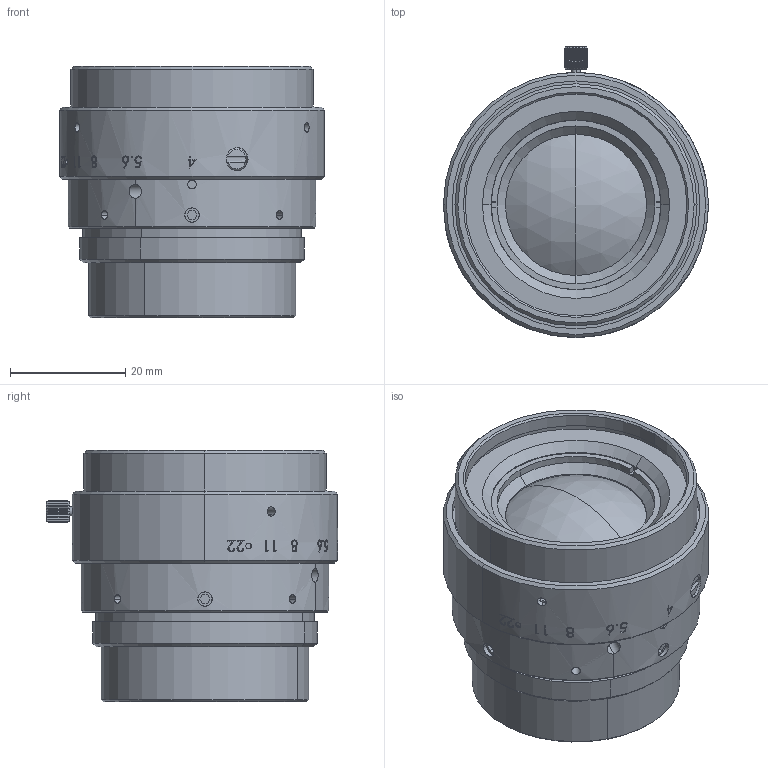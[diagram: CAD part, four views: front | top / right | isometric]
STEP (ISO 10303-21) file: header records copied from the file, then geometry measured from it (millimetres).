
FILE_DESCRIPTION (( 'STEP AP203' ), '1' );
FILE_NAME ('3d_C-ML-6540-62M39_a001.STEP', '2023-10-13T04:21:40', ( '' ), ( '' ), 'SwSTEP 2.0', 'SolidWorks 2020', '' );
FILE_SCHEMA (( 'CONFIG_CONTROL_DESIGN' ));
Length unit declared in the file: millimetre
Products named in the file (1): 3d_C-ML-6540-62M39_a001
Bounding box: 46 x 50.5 x 43.6 mm (x, y, z)
Volume: 50181.2 mm3; surface area: 11300.9 mm2
Topology: 1 solids, 1 shells, 598 faces, 1549 edges, 1015 vertices
Faces by surface type: cylinder 206, plane 187, bspline 140, cone 61, sphere 4
Entity records: 32163 total; most frequent: CARTESIAN_POINT 19049, ORIENTED_EDGE 3098, DIRECTION 2040, EDGE_CURVE 1549, VERTEX_POINT 1015, AXIS2_PLACEMENT_3D 774, B_SPLINE_CURVE_WITH_KNOTS 742, EDGE_LOOP 660
